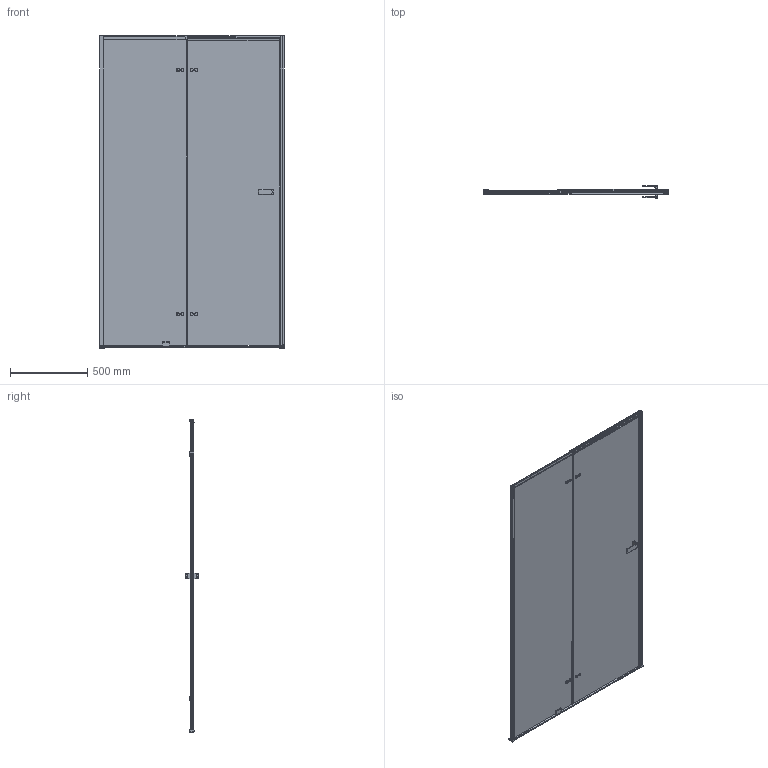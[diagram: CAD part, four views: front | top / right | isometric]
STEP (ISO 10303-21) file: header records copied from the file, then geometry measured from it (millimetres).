
FILE_DESCRIPTION (( 'STEP AP203' ), '1' );
FILE_NAME ('OBT-7408.STEP', '2023-12-02T03:41:01', ( '微软用户' ), ( '微软中国' ), 'SwSTEP 2.0', 'SolidWorks 2012', '' );
FILE_SCHEMA (( 'CONFIG_CONTROL_DESIGN' ));
Length unit declared in the file: millimetre
Products named in the file (48): 棠沭A1982; 狟結阨蝶沭610; 魂雄藷1982; 嘐隅產薛; 等晚蝶沭; Х羞臏第蚾庉裔1; 狟結阨L; そ瑞嘐隅臏第; 嘐隅產薛1982; Х第2000; OBT-7408; 錨璃2; 305-579 載陔 20211118; socket head cap screw_ai_HX-SHCS 0.164-36x1.5x1.5-N; 防爆圈; 蝶菜DD; 嶺忒裔; 嶺忒HHHBB; 嶺忒HHH; 305-557; 噩砃滅袉蝶L_1; 滅袉蝶LE; 滅袉蝶E; 1蹟佪2E_2; 裔E_2; hex lobular socket ctsk screws gb_GB_MC_SCREW_TYPE12 M6X12-8.7-S_2; 1磁珜22E_2; 1磁珜12E_2; 1磁珜菜え2E; 1粣2E; 1攝韓杶2E; 1賑雄蹟譫2E_2; cross recessed countersunk head screws gb1_GB_CROSS_SCREWS_TYPE4 M4X6-3.3  H type-S; 1嘐隅裔啣2E_2; 1磁珜翋极22E; 1磁珜翋极12E; ASM; Х杶; 嶺裝-耜; 標芛B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
Assembly tree (67 placements, depth 4):
  OBT-7408
    OBT-5006 1200X2000
      嘐隅產薛
        Х第2000
        嘐隅產薛1982
        そ瑞嘐隅臏第
        狟結阨L
        Х羞臏第蚾庉裔1
        等晚蝶沭
      魂雄產薛
        魂雄藷1982
        狟結阨蝶沭610
        棠沭A1982
      狟結阨臏第623
      棠沭臏第
        棠沭臏第2000
        棠沭B2000
        307-457 棠沭臏第裔 2015-12-26
        噩砃狟結阨璃L 307-803
    ASM
      標芛B
      嶺裝-耜
      Х杶
    Х杶
    305-557  x2
      1磁珜翋极12E
      1磁珜翋极22E
      1嘐隅裔啣2E_2
      cross recessed countersunk head screws gb1_GB_CROSS_SCREWS_TYPE4 M4X6-3.3  H type-S
      1賑雄蹟譫2E_2
      1攝韓杶2E
      1粣2E
      1磁珜菜え2E
      1蹟佪2E_2
        1磁珜12E_2
        1磁珜22E_2
        hex lobular socket ctsk screws gb_GB_MC_SCREW_TYPE12 M6X12-8.7-S_2
        裔E_2
      滅袉蝶E
      滅袉蝶LE
      噩砃滅袉蝶L_1
    305-579 載陔 20211118
      嶺忒HHH
      嶺忒HHHBB
      嶺忒裔  x2
      蝶菜DD  x2
      防爆圈  x2
      socket head cap screw_ai_HX-SHCS 0.164-36x1.5x1.5-N  x2
    錨璃2
Bounding box: 1195.6 x 78.89 x 2017.89 mm (x, y, z)
Volume: 19263098.6 mm3; surface area: 6352046.2 mm2
Topology: 105 solids, 105 shells, 3948 faces, 9200 edges, 5550 vertices
Faces by surface type: cylinder 1377, plane 1335, cone 1064, torus 152, bspline 15, sphere 5
Entity records: 48766 total; most frequent: CARTESIAN_POINT 8737, DIRECTION 7398, ORIENTED_EDGE 7006, EDGE_CURVE 3503, AXIS2_PLACEMENT_3D 2527, VECTOR 2344, LINE 2344, VERTEX_POINT 2223
